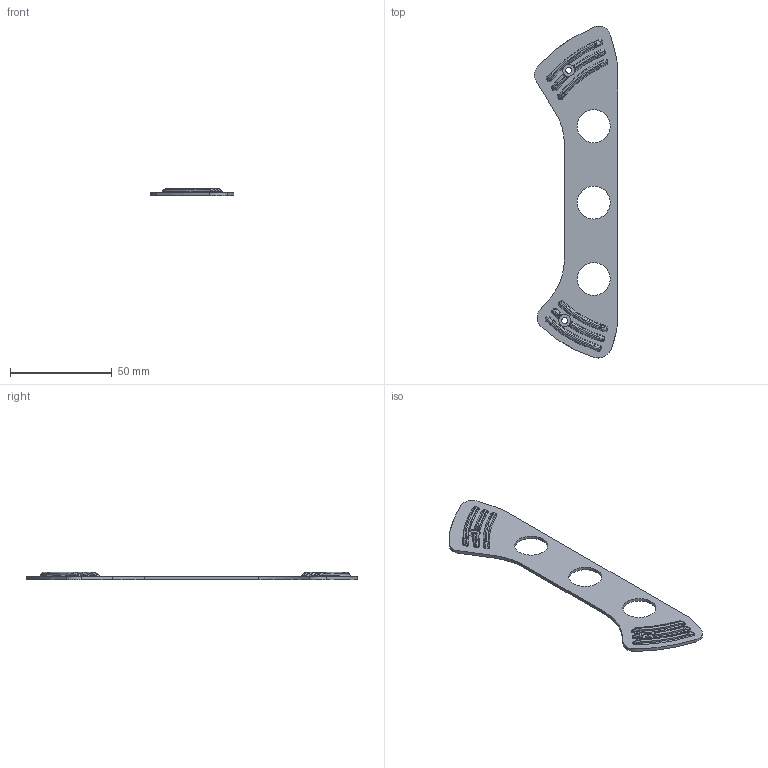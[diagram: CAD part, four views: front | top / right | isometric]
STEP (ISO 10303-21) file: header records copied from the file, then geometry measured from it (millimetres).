
FILE_DESCRIPTION(/* description */ (''),/* implementation_level */ '2;1');
FILE_NAME(/* name */ 'LAST_Base 02.stp',/* time_stamp */ '2025-11-19T21:12:21+09:00',/* author */ (''),/* organization */ (''),/* preprocessor_version */ 'ST-DEVELOPER v11',/* originating_system */ 'SIEMENS PLM Software NX 7.5',/* authorisation */ '');
FILE_SCHEMA (('CONFIG_CONTROL_DESIGN'));
Length unit declared in the file: millimetre
Products named in the file (1): gyun8741ynw4
Bounding box: 40.89 x 163 x 3.5 mm (x, y, z)
Volume: 6650 mm3; surface area: 9400.9 mm2
Topology: 1 solids, 1 shells, 155 faces, 362 edges, 218 vertices
Faces by surface type: bspline 92, cylinder 41, plane 15, extrusion 7
Full cylindrical faces by diameter (mm): 2.9 x2, 5.9 x2, 16.2 x3
Entity records: 7106 total; most frequent: CARTESIAN_POINT 4164, ORIENTED_EDGE 704, DIRECTION 397, EDGE_CURVE 352, VERTEX_POINT 215, B_SPLINE_CURVE_WITH_KNOTS 191, EDGE_LOOP 181, AXIS2_PLACEMENT_3D 164
